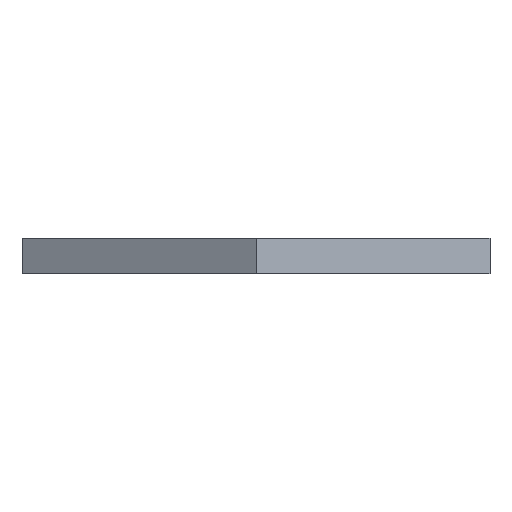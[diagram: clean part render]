
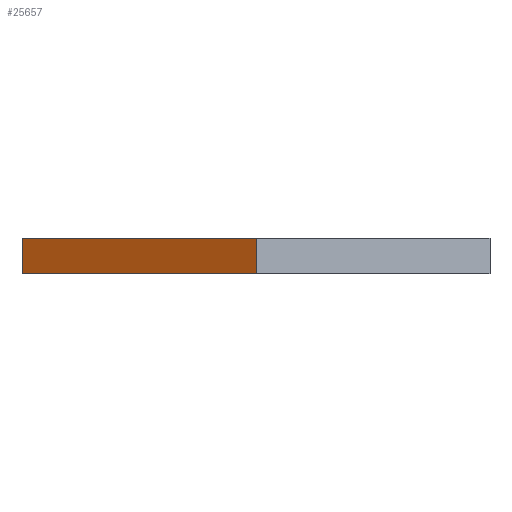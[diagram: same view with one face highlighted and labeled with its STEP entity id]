
A CAD part, left-side view. The second image highlights one B-rep face of the part: STEP entity #25657.
In plain terms, the highlighted planar face has unit normal (-0.866, 0.5, 0).
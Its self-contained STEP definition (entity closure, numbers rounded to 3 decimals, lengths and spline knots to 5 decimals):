
#226=PLANE('',#25969);
#488=LINE('',#88144,#757);
#490=LINE('',#88148,#759);
#491=LINE('',#88150,#760);
#492=LINE('',#88152,#761);
#757=VECTOR('',#26819,1.);
#759=VECTOR('',#26823,1.);
#760=VECTOR('',#26824,1.);
#761=VECTOR('',#26825,1.);
#9060=ORIENTED_EDGE('',*,*,#13150,.F.);
#9061=ORIENTED_EDGE('',*,*,#13151,.F.);
#9062=ORIENTED_EDGE('',*,*,#13152,.T.);
#9063=ORIENTED_EDGE('',*,*,#13148,.T.);
#13148=EDGE_CURVE('',#15610,#15609,#488,.T.);
#13150=EDGE_CURVE('',#15611,#15609,#490,.T.);
#13151=EDGE_CURVE('',#15612,#15611,#491,.T.);
#13152=EDGE_CURVE('',#15612,#15610,#492,.T.);
#15609=VERTEX_POINT('',#88143);
#15610=VERTEX_POINT('',#88145);
#15611=VERTEX_POINT('',#88149);
#15612=VERTEX_POINT('',#88151);
#21016=EDGE_LOOP('',(#9060,#9061,#9062,#9063));
#22721=FACE_BOUND('',#21016,.T.);
#25657=ADVANCED_FACE('',(#22721),#226,.T.);
#25969=AXIS2_PLACEMENT_3D('',#88147,#26821,#26822);
#26819=DIRECTION('',(0.,0.,-1.));
#26821=DIRECTION('',(-0.866,0.5,0.));
#26822=DIRECTION('',(-0.5,-0.866,0.));
#26823=DIRECTION('',(0.5,0.866,0.));
#26824=DIRECTION('',(0.,0.,-1.));
#26825=DIRECTION('',(0.5,0.866,0.));
#88143=CARTESIAN_POINT('',(-0.07604,0.1319,-0.009));
#88144=CARTESIAN_POINT('',(-0.07604,0.1319,0.011));
#88145=CARTESIAN_POINT('',(-0.07604,0.1319,0.011));
#88147=CARTESIAN_POINT('',(-0.11414,0.06595,0.011));
#88148=CARTESIAN_POINT('',(-0.11414,0.06595,-0.009));
#88149=CARTESIAN_POINT('',(-0.15224,0.,-0.009));
#88150=CARTESIAN_POINT('',(-0.15224,0.,0.011));
#88151=CARTESIAN_POINT('',(-0.15224,0.,0.011));
#88152=CARTESIAN_POINT('',(-0.11414,0.06595,0.011));
